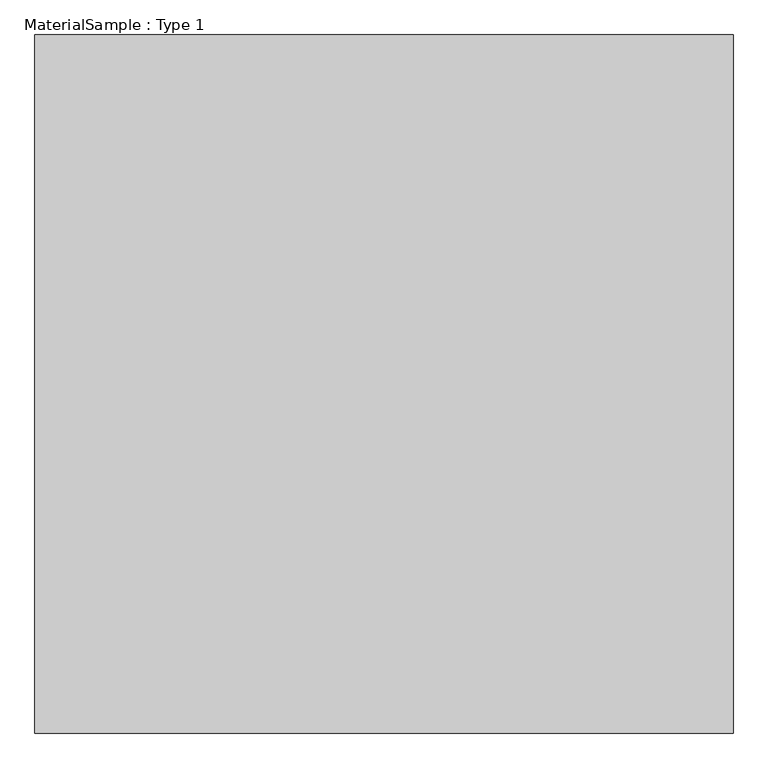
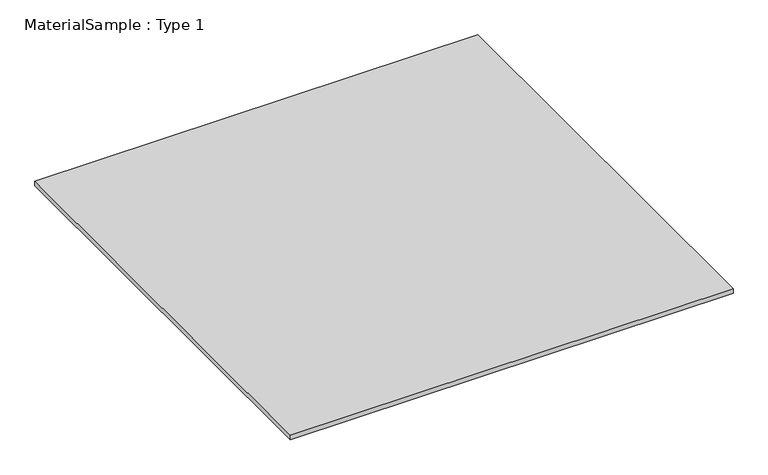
"""IFC4 building model written with IfcOpenShell, lengths in millimetres: proxy geometry, MaterialSample : Type 1."""

from ifc_helpers import new_model, si_unit, origin, origin_with_axes, place, context, project, spatial, polyline, outline, extrude, source, transform, mapped, element, save


def materialsample_type_1_f4103403(model_context):
    return source(origin(), model_context, "Body", "SweptSolid", [
        extrude(outline(polyline([(2438.4, 0.0), (0.0, 0.0), (0.0, 2438.4), (2438.4, 2438.4), (2438.4, 0.0)])), origin_with_axes(), (0.0, 0.0, 1.0), 25.4),
    ])


if __name__ == "__main__":
    model = new_model("IFC4")
    model_context = context("Model", 3, world=origin())
    ifc_project = project(units=[si_unit("LENGTHUNIT", "METRE", prefix="MILLI")], contexts=[model_context])
    site = spatial("IfcSite", under=ifc_project)
    building = spatial("IfcBuilding", under=site)
    placement = place(None, origin())
    materialsample_type_1_shape = materialsample_type_1_f4103403(model_context)
    element("IfcBuildingElementProxy", 1, Name="MaterialSample : Type 1", ObjectType="MaterialSample : Type 1", at=placement, inside=building, context=model_context, shape_type="MappedRepresentation", body=[
        mapped(materialsample_type_1_shape, transform((0.0, 0.0, 0.0), x_axis=(1.0, 0.0, 0.0), y_axis=(0.0, 1.0, 0.0), z_axis=(0.0, 0.0, 1.0))),
    ])
    save(model, "model.ifc")
